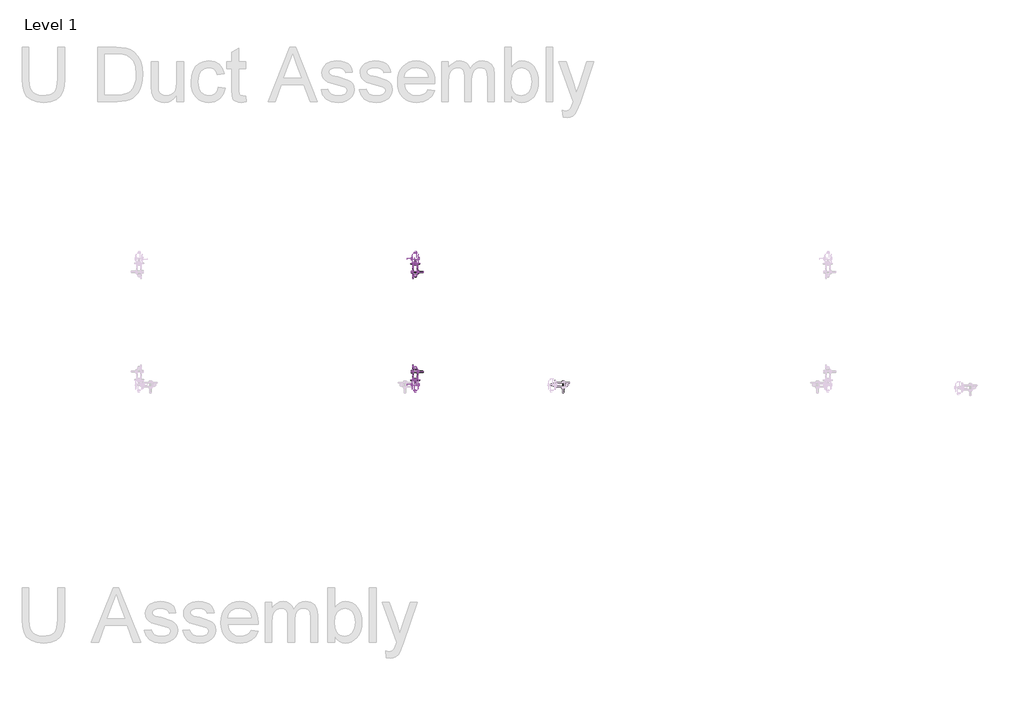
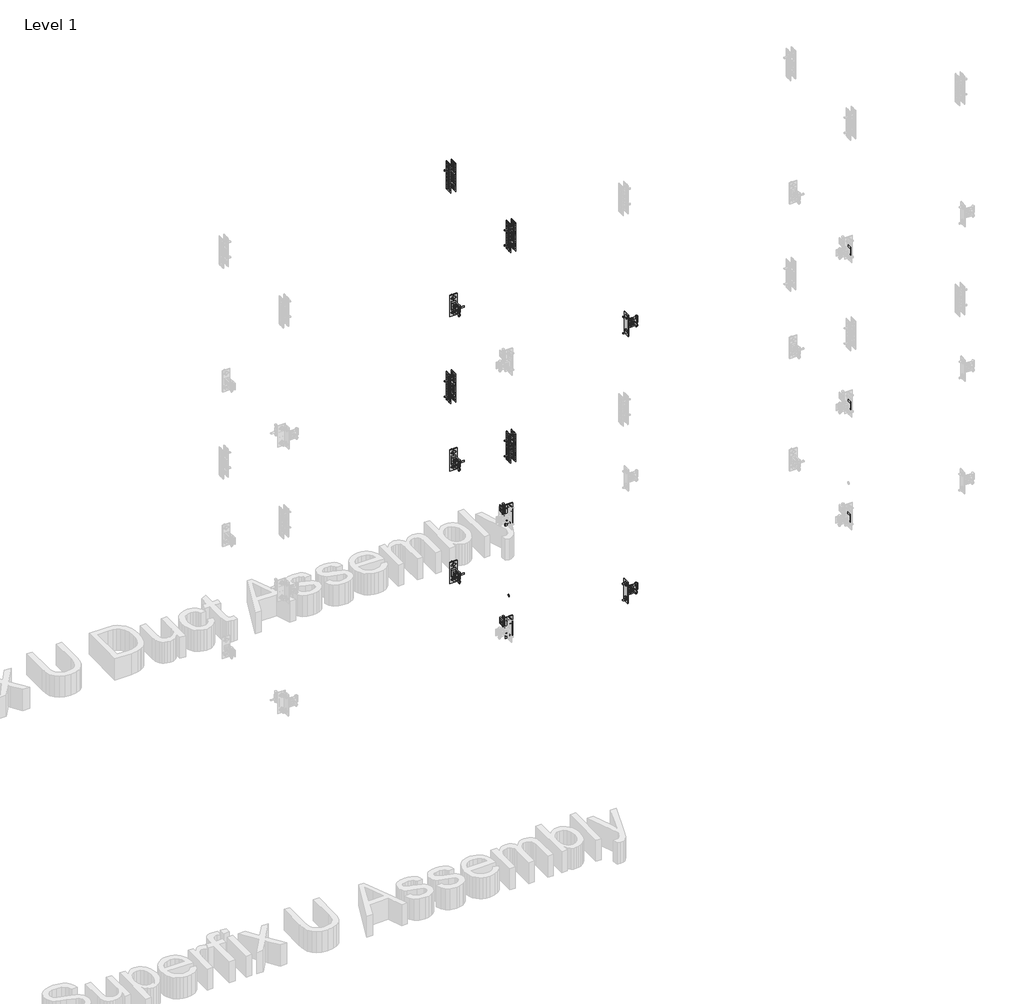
# One storey, part 13 of 32: 143 valves.
"""IFC4 building model written with IfcOpenShell, lengths in millimetres."""

from ifc_helpers import new_model, si_unit, origin, place, context, project, spatial, transform, mapped, element, save
from components import valve_fad8a5b8, hexagon_nut_galvanized_extra_m8_53389388, superfix_hexagon_screw_galvanized_8354a985, superfix_hexagon_screw_galvanized_f0d66714, superfix_hexagon_screw_galvanized_68d17cb7, superfix_hexagon_screw_galvanized_e39b877e, superfix_hexagon_screw_galvanized_3ef5af78, superfix_hexagon_screw_galvanized_3d7df342, superfix_strap_981cfdac, superfix_u_658711f6, superfix_u_31397e19, superfix_u_bracket_h_0b8578fe, superfix_u_bracket_h_f60a1122

model = new_model("IFC4")

# Units and contexts
model_context = context("Model", 3, world=origin())
ifc_project = project(units=[si_unit("LENGTHUNIT", "METRE", prefix="MILLI")], contexts=[model_context])

# Site, building, storey
site = spatial("IfcSite", under=ifc_project)
building = spatial("IfcBuilding", under=site)
storey = spatial("IfcBuildingStorey", under=building, Name="Level 1", Elevation=0.0)

# Valves
placement = place(None, origin())
valve_shape = valve_fad8a5b8(model_context)
element("IfcValve", 1, ObjectType="Superfix Flat Washer : Superfix Flat Washer M8x15x1.5", at=placement, inside=storey, context=model_context, shape_type="MappedRepresentation", body=[
    mapped(valve_shape, transform((-18695.950626, 29404.96055, 2600.0), x_axis=(0.0, 1.0, 0.0), y_axis=(0.0, 0.0, 1.0), z_axis=(1.0, 0.0, 0.0))),
])
element("IfcValve", 2, ObjectType="Superfix Flat Washer : Superfix Flat Washer M8x15x1.5", at=placement, inside=storey, context=model_context, shape_type="MappedRepresentation", body=[
    mapped(valve_shape, transform((-18708.450626, 29455.96055, 2658.0), x_axis=(0.0, 0.0, 1.0), y_axis=(-1.0, 0.0, 0.0), z_axis=(0.0, -1.0, 0.0))),
])
element("IfcValve", 3, ObjectType="Superfix Flat Washer : Superfix Flat Washer M8x15x1.5", at=placement, inside=storey, context=model_context, shape_type="MappedRepresentation", body=[
    mapped(valve_shape, transform((-18708.450626, 29455.96055, 2542.0), x_axis=(0.0, 0.0, 1.0), y_axis=(-1.0, 0.0, 0.0), z_axis=(0.0, -1.0, 0.0))),
])
element("IfcValve", 4, ObjectType="Superfix Flat Washer : Superfix Flat Washer M8x15x1.5", at=placement, inside=storey, context=model_context, shape_type="MappedRepresentation", body=[
    mapped(valve_shape, transform((-18708.450626, 29384.96055, 2571.5), x_axis=(0.0, 1.0, 0.0), y_axis=(1.0, 0.0, 0.0), z_axis=(0.0, 0.0, -1.0))),
])
element("IfcValve", 5, ObjectType="Superfix Flat Washer : Superfix Flat Washer M8x15x1.5", at=placement, inside=storey, context=model_context, shape_type="MappedRepresentation", body=[
    mapped(valve_shape, transform((-18695.950626, 29404.96055, 1500.0), x_axis=(0.0, 1.0, 0.0), y_axis=(0.0, 0.0, 1.0), z_axis=(1.0, 0.0, 0.0))),
])
element("IfcValve", 6, ObjectType="Superfix Flat Washer : Superfix Flat Washer M8x15x1.5", at=placement, inside=storey, context=model_context, shape_type="MappedRepresentation", body=[
    mapped(valve_shape, transform((-18695.950626, 28851.96055, 1500.0), x_axis=(0.0, 1.0, 0.0), y_axis=(0.0, 0.0, 1.0), z_axis=(1.0, 0.0, 0.0))),
])
element("IfcValve", 7, ObjectType="Superfix Flat Washer : Superfix Flat Washer M8x15x1.5", at=placement, inside=storey, context=model_context, shape_type="MappedRepresentation", body=[
    mapped(valve_shape, transform((-18708.450626, 29455.96055, 1558.0), x_axis=(0.0, 0.0, 1.0), y_axis=(-1.0, 0.0, 0.0), z_axis=(0.0, -1.0, 0.0))),
])
element("IfcValve", 8, ObjectType="Superfix Flat Washer : Superfix Flat Washer M8x15x1.5", at=placement, inside=storey, context=model_context, shape_type="MappedRepresentation", body=[
    mapped(valve_shape, transform((-18708.450626, 28802.56055, 1442.0), x_axis=(0.0, 0.0, 1.0), y_axis=(-1.0, 0.0, 0.0), z_axis=(0.0, -1.0, 0.0))),
])
element("IfcValve", 9, ObjectType="Superfix Flat Washer : Superfix Flat Washer M8x15x1.5", at=placement, inside=storey, context=model_context, shape_type="MappedRepresentation", body=[
    mapped(valve_shape, transform((-18708.450626, 29455.96055, 1442.0), x_axis=(0.0, 0.0, 1.0), y_axis=(-1.0, 0.0, 0.0), z_axis=(0.0, -1.0, 0.0))),
])
element("IfcValve", 10, ObjectType="Superfix Flat Washer : Superfix Flat Washer M8x15x1.5", at=placement, inside=storey, context=model_context, shape_type="MappedRepresentation", body=[
    mapped(valve_shape, transform((-18708.450626, 28802.56055, 1558.0), x_axis=(0.0, 0.0, 1.0), y_axis=(-1.0, 0.0, 0.0), z_axis=(0.0, -1.0, 0.0))),
])
element("IfcValve", 11, ObjectType="Superfix Flat Washer : Superfix Flat Washer M8x15x1.5", at=placement, inside=storey, context=model_context, shape_type="MappedRepresentation", body=[
    mapped(valve_shape, transform((-18708.450626, 28871.96055, 1471.5), x_axis=(0.0, 1.0, 0.0), y_axis=(1.0, 0.0, 0.0), z_axis=(0.0, 0.0, -1.0))),
])
element("IfcValve", 12, ObjectType="Superfix Flat Washer : Superfix Flat Washer M8x15x1.5", at=placement, inside=storey, context=model_context, shape_type="MappedRepresentation", body=[
    mapped(valve_shape, transform((-18708.450626, 29384.96055, 1471.5), x_axis=(0.0, 1.0, 0.0), y_axis=(1.0, 0.0, 0.0), z_axis=(0.0, 0.0, -1.0))),
])
element("IfcValve", 13, ObjectType="Superfix Flat Washer : Superfix Flat Washer M8x15x1.5", at=placement, inside=storey, context=model_context, shape_type="MappedRepresentation", body=[
    mapped(valve_shape, transform((-18695.950626, 29403.96055, 700.0), x_axis=(0.0, 1.0, 0.0), y_axis=(0.0, 0.0, 1.0), z_axis=(1.0, 0.0, 0.0))),
])
element("IfcValve", 14, ObjectType="Superfix Flat Washer : Superfix Flat Washer M8x15x1.5", at=placement, inside=storey, context=model_context, shape_type="MappedRepresentation", body=[
    mapped(valve_shape, transform((-18695.950626, 28850.96055, 700.0), x_axis=(0.0, 1.0, 0.0), y_axis=(0.0, 0.0, 1.0), z_axis=(1.0, 0.0, 0.0))),
])
element("IfcValve", 15, ObjectType="Superfix Flat Washer : Superfix Flat Washer M8x15x1.5", at=placement, inside=storey, context=model_context, shape_type="MappedRepresentation", body=[
    mapped(valve_shape, transform((-18708.450626, 29454.96055, 758.0), x_axis=(0.0, 0.0, 1.0), y_axis=(-1.0, 0.0, 0.0), z_axis=(0.0, -1.0, 0.0))),
])
element("IfcValve", 16, ObjectType="Superfix Flat Washer : Superfix Flat Washer M8x15x1.5", at=placement, inside=storey, context=model_context, shape_type="MappedRepresentation", body=[
    mapped(valve_shape, transform((-18708.450626, 28801.56055, 642.0), x_axis=(0.0, 0.0, 1.0), y_axis=(-1.0, 0.0, 0.0), z_axis=(0.0, -1.0, 0.0))),
])
element("IfcValve", 17, ObjectType="Superfix Flat Washer : Superfix Flat Washer M8x15x1.5", at=placement, inside=storey, context=model_context, shape_type="MappedRepresentation", body=[
    mapped(valve_shape, transform((-18708.450626, 29454.96055, 642.0), x_axis=(0.0, 0.0, 1.0), y_axis=(-1.0, 0.0, 0.0), z_axis=(0.0, -1.0, 0.0))),
])
element("IfcValve", 18, ObjectType="Superfix Flat Washer : Superfix Flat Washer M8x15x1.5", at=placement, inside=storey, context=model_context, shape_type="MappedRepresentation", body=[
    mapped(valve_shape, transform((-18708.450626, 28801.56055, 758.0), x_axis=(0.0, 0.0, 1.0), y_axis=(-1.0, 0.0, 0.0), z_axis=(0.0, -1.0, 0.0))),
])
element("IfcValve", 19, ObjectType="Superfix Flat Washer : Superfix Flat Washer M8x15x1.5", at=placement, inside=storey, context=model_context, shape_type="MappedRepresentation", body=[
    mapped(valve_shape, transform((-18708.450626, 28870.96055, 671.5), x_axis=(0.0, 1.0, 0.0), y_axis=(1.0, 0.0, 0.0), z_axis=(0.0, 0.0, -1.0))),
])
element("IfcValve", 20, ObjectType="Superfix Flat Washer : Superfix Flat Washer M8x15x1.5", at=placement, inside=storey, context=model_context, shape_type="MappedRepresentation", body=[
    mapped(valve_shape, transform((-18708.450626, 29383.96055, 671.5), x_axis=(0.0, 1.0, 0.0), y_axis=(1.0, 0.0, 0.0), z_axis=(0.0, 0.0, -1.0))),
])
element("IfcValve", 21, ObjectType="Superfix Flat Washer : Superfix Flat Washer M8x15x1.5", at=placement, inside=storey, context=model_context, shape_type="MappedRepresentation", body=[
    mapped(valve_shape, transform((-17888.3949112, 28765.46055, 700.0), x_axis=(1.0, 0.0, 0.0), y_axis=(0.0, 0.0, 1.0), z_axis=(0.0, -1.0, 0.0))),
])
element("IfcValve", 22, ObjectType="Superfix Flat Washer : Superfix Flat Washer M8x15x1.5", at=placement, inside=storey, context=model_context, shape_type="MappedRepresentation", body=[
    mapped(valve_shape, transform((-17937.7949112, 28777.96055, 642.0), x_axis=(0.0, 0.0, 1.0), y_axis=(0.0, 1.0, 0.0), z_axis=(-1.0, 0.0, 0.0))),
])
element("IfcValve", 23, ObjectType="Superfix Flat Washer : Superfix Flat Washer M8x15x1.5", at=placement, inside=storey, context=model_context, shape_type="MappedRepresentation", body=[
    mapped(valve_shape, transform((-17937.7949112, 28777.96055, 758.0), x_axis=(0.0, 0.0, 1.0), y_axis=(0.0, 1.0, 0.0), z_axis=(-1.0, 0.0, 0.0))),
])
element("IfcValve", 24, ObjectType="Superfix Flat Washer : Superfix Flat Washer M8x15x1.5", at=placement, inside=storey, context=model_context, shape_type="MappedRepresentation", body=[
    mapped(valve_shape, transform((-17868.3949112, 28777.96055, 671.5), x_axis=(1.0, 0.0, 0.0), y_axis=(0.0, -1.0, 0.0), z_axis=(0.0, 0.0, -1.0))),
])
element("IfcValve", 25, ObjectType="Superfix Flat Washer : Superfix Flat Washer M8x15x1.5", at=placement, inside=storey, context=model_context, shape_type="MappedRepresentation", body=[
    mapped(valve_shape, transform((-18726.050626, 29477.96055, 2055.0), x_axis=(0.0, 1.0, 0.0), y_axis=(0.0, 0.0, 1.0), z_axis=(1.0, 0.0, 0.0))),
])
element("IfcValve", 26, ObjectType="Superfix Flat Washer : Superfix Flat Washer M8x15x1.5", at=placement, inside=storey, context=model_context, shape_type="MappedRepresentation", body=[
    mapped(valve_shape, transform((-18726.050626, 29477.96055, 1945.0), x_axis=(0.0, 1.0, 0.0), y_axis=(0.0, 0.0, 1.0), z_axis=(1.0, 0.0, 0.0))),
])
element("IfcValve", 27, ObjectType="Superfix Flat Washer : Superfix Flat Washer M8x15x1.5", at=placement, inside=storey, context=model_context, shape_type="MappedRepresentation", body=[
    mapped(valve_shape, transform((-18726.050626, 28777.96055, 2055.0), x_axis=(0.0, 1.0, 0.0), y_axis=(0.0, 0.0, 1.0), z_axis=(1.0, 0.0, 0.0))),
])
element("IfcValve", 28, ObjectType="Superfix Flat Washer : Superfix Flat Washer M8x15x1.5", at=placement, inside=storey, context=model_context, shape_type="MappedRepresentation", body=[
    mapped(valve_shape, transform((-18726.050626, 28777.96055, 945.0), x_axis=(0.0, 1.0, 0.0), y_axis=(0.0, 0.0, 1.0), z_axis=(1.0, 0.0, 0.0))),
])
element("IfcValve", 29, ObjectType="Superfix Flat Washer : Superfix Flat Washer M8x15x1.5", at=placement, inside=storey, context=model_context, shape_type="MappedRepresentation", body=[
    mapped(valve_shape, transform((-18708.450626, 29508.06055, 2040.0), x_axis=(1.0, 0.0, 0.0), y_axis=(0.0, 0.0, 1.0), z_axis=(0.0, -1.0, 0.0))),
])
element("IfcValve", 30, ObjectType="Superfix Flat Washer : Superfix Flat Washer M8x15x1.5", at=placement, inside=storey, context=model_context, shape_type="MappedRepresentation", body=[
    mapped(valve_shape, transform((-18708.450626, 29508.06055, 1960.0), x_axis=(1.0, 0.0, 0.0), y_axis=(0.0, 0.0, 1.0), z_axis=(0.0, -1.0, 0.0))),
])
element("IfcValve", 31, ObjectType="Superfix Flat Washer : Superfix Flat Washer M8x15x1.5", at=placement, inside=storey, context=model_context, shape_type="MappedRepresentation", body=[
    mapped(valve_shape, transform((-18708.450626, 28749.46055, 2040.0), x_axis=(1.0, 0.0, 0.0), y_axis=(0.0, 0.0, 1.0), z_axis=(0.0, -1.0, 0.0))),
])
element("IfcValve", 32, ObjectType="Superfix Flat Washer : Superfix Flat Washer M8x15x1.5", at=placement, inside=storey, context=model_context, shape_type="MappedRepresentation", body=[
    mapped(valve_shape, transform((-18708.450626, 28749.46055, 1960.0), x_axis=(1.0, 0.0, 0.0), y_axis=(0.0, 0.0, 1.0), z_axis=(0.0, -1.0, 0.0))),
])
element("IfcValve", 33, ObjectType="Superfix Flat Washer : Superfix Flat Washer M8x15x1.5", at=placement, inside=storey, context=model_context, shape_type="MappedRepresentation", body=[
    mapped(valve_shape, transform((-18726.050626, 29477.96055, 3555.0), x_axis=(0.0, 1.0, 0.0), y_axis=(0.0, 0.0, 1.0), z_axis=(1.0, 0.0, 0.0))),
])
element("IfcValve", 34, ObjectType="Superfix Flat Washer : Superfix Flat Washer M8x15x1.5", at=placement, inside=storey, context=model_context, shape_type="MappedRepresentation", body=[
    mapped(valve_shape, transform((-18726.050626, 29477.96055, 3445.0), x_axis=(0.0, 1.0, 0.0), y_axis=(0.0, 0.0, 1.0), z_axis=(1.0, 0.0, 0.0))),
])
element("IfcValve", 35, ObjectType="Superfix Flat Washer : Superfix Flat Washer M8x15x1.5", at=placement, inside=storey, context=model_context, shape_type="MappedRepresentation", body=[
    mapped(valve_shape, transform((-18726.050626, 28777.96055, 3555.0), x_axis=(0.0, 1.0, 0.0), y_axis=(0.0, 0.0, 1.0), z_axis=(1.0, 0.0, 0.0))),
])
element("IfcValve", 36, ObjectType="Superfix Flat Washer : Superfix Flat Washer M8x15x1.5", at=placement, inside=storey, context=model_context, shape_type="MappedRepresentation", body=[
    mapped(valve_shape, transform((-18708.450626, 29508.06055, 3540.0), x_axis=(1.0, 0.0, 0.0), y_axis=(0.0, 0.0, 1.0), z_axis=(0.0, -1.0, 0.0))),
])
element("IfcValve", 37, ObjectType="Superfix Flat Washer : Superfix Flat Washer M8x15x1.5", at=placement, inside=storey, context=model_context, shape_type="MappedRepresentation", body=[
    mapped(valve_shape, transform((-18708.450626, 29508.06055, 3460.0), x_axis=(1.0, 0.0, 0.0), y_axis=(0.0, 0.0, 1.0), z_axis=(0.0, -1.0, 0.0))),
])
element("IfcValve", 38, ObjectType="Superfix Flat Washer : Superfix Flat Washer M8x15x1.5", at=placement, inside=storey, context=model_context, shape_type="MappedRepresentation", body=[
    mapped(valve_shape, transform((-18708.450626, 28749.46055, 3540.0), x_axis=(1.0, 0.0, 0.0), y_axis=(0.0, 0.0, 1.0), z_axis=(0.0, -1.0, 0.0))),
])
element("IfcValve", 39, ObjectType="Superfix Flat Washer : Superfix Flat Washer M8x15x1.5", at=placement, inside=storey, context=model_context, shape_type="MappedRepresentation", body=[
    mapped(valve_shape, transform((-18708.450626, 28749.46055, 3460.0), x_axis=(1.0, 0.0, 0.0), y_axis=(0.0, 0.0, 1.0), z_axis=(0.0, -1.0, 0.0))),
])
hexagon_nut_galvanized_extra_m8_shape = hexagon_nut_galvanized_extra_m8_53389388(model_context)
element("IfcValve", 40, ObjectType="Superfix Hexagon Nut Galvanized : Hexagon Nut Galvanized M8", at=placement, inside=storey, context=model_context, shape_type="MappedRepresentation", body=[
    mapped(hexagon_nut_galvanized_extra_m8_shape, transform((-18695.950626, 29404.96055, 2600.0), x_axis=(0.0, 1.0, 0.0), y_axis=(0.0, 0.0, 1.0), z_axis=(1.0, 0.0, 0.0))),
])
element("IfcValve", 41, ObjectType="Superfix Hexagon Nut Galvanized : Hexagon Nut Galvanized M8", at=placement, inside=storey, context=model_context, shape_type="MappedRepresentation", body=[
    mapped(hexagon_nut_galvanized_extra_m8_shape, transform((-18708.450626, 29384.96055, 2565.0), x_axis=(-1.0, 0.0, 0.0), y_axis=(0.0, -1.0, 0.0), z_axis=(0.0, 0.0, 1.0))),
])
element("IfcValve", 42, ObjectType="Superfix Hexagon Nut Galvanized : Hexagon Nut Galvanized M8", at=placement, inside=storey, context=model_context, shape_type="MappedRepresentation", body=[
    mapped(hexagon_nut_galvanized_extra_m8_shape, transform((-18708.450626, 29462.46055, 2542.0), x_axis=(0.0, 0.0, 1.0), y_axis=(-1.0, 0.0, 0.0), z_axis=(0.0, -1.0, 0.0))),
])
element("IfcValve", 43, ObjectType="Superfix Hexagon Nut Galvanized : Hexagon Nut Galvanized M8", at=placement, inside=storey, context=model_context, shape_type="MappedRepresentation", body=[
    mapped(hexagon_nut_galvanized_extra_m8_shape, transform((-18708.450626, 29462.46055, 2658.0), x_axis=(0.0, 0.0, 1.0), y_axis=(-1.0, 0.0, 0.0), z_axis=(0.0, -1.0, 0.0))),
])
element("IfcValve", 44, ObjectType="Superfix Hexagon Nut Galvanized : Hexagon Nut Galvanized M8", at=placement, inside=storey, context=model_context, shape_type="MappedRepresentation", body=[
    mapped(hexagon_nut_galvanized_extra_m8_shape, transform((-18695.950626, 29404.96055, 1500.0), x_axis=(0.0, 1.0, 0.0), y_axis=(0.0, 0.0, 1.0), z_axis=(1.0, 0.0, 0.0))),
])
element("IfcValve", 45, ObjectType="Superfix Hexagon Nut Galvanized : Hexagon Nut Galvanized M8", at=placement, inside=storey, context=model_context, shape_type="MappedRepresentation", body=[
    mapped(hexagon_nut_galvanized_extra_m8_shape, transform((-18708.450626, 29384.96055, 1465.0), x_axis=(-1.0, 0.0, 0.0), y_axis=(0.0, -1.0, 0.0), z_axis=(0.0, 0.0, 1.0))),
])
element("IfcValve", 46, ObjectType="Superfix Hexagon Nut Galvanized : Hexagon Nut Galvanized M8", at=placement, inside=storey, context=model_context, shape_type="MappedRepresentation", body=[
    mapped(hexagon_nut_galvanized_extra_m8_shape, transform((-18708.450626, 29462.46055, 1442.0), x_axis=(0.0, 0.0, 1.0), y_axis=(-1.0, 0.0, 0.0), z_axis=(0.0, -1.0, 0.0))),
])
element("IfcValve", 47, ObjectType="Superfix Hexagon Nut Galvanized : Hexagon Nut Galvanized M8", at=placement, inside=storey, context=model_context, shape_type="MappedRepresentation", body=[
    mapped(hexagon_nut_galvanized_extra_m8_shape, transform((-18708.450626, 29462.46055, 1558.0), x_axis=(0.0, 0.0, 1.0), y_axis=(-1.0, 0.0, 0.0), z_axis=(0.0, -1.0, 0.0))),
])
element("IfcValve", 48, ObjectType="Superfix Hexagon Nut Galvanized : Hexagon Nut Galvanized M8", at=placement, inside=storey, context=model_context, shape_type="MappedRepresentation", body=[
    mapped(hexagon_nut_galvanized_extra_m8_shape, transform((-18695.950626, 29403.96055, 700.0), x_axis=(0.0, 1.0, 0.0), y_axis=(0.0, 0.0, 1.0), z_axis=(1.0, 0.0, 0.0))),
])
element("IfcValve", 49, ObjectType="Superfix Hexagon Nut Galvanized : Hexagon Nut Galvanized M8", at=placement, inside=storey, context=model_context, shape_type="MappedRepresentation", body=[
    mapped(hexagon_nut_galvanized_extra_m8_shape, transform((-18708.450626, 29383.96055, 665.0), x_axis=(-1.0, 0.0, 0.0), y_axis=(0.0, -1.0, 0.0), z_axis=(0.0, 0.0, 1.0))),
])
element("IfcValve", 50, ObjectType="Superfix Hexagon Nut Galvanized : Hexagon Nut Galvanized M8", at=placement, inside=storey, context=model_context, shape_type="MappedRepresentation", body=[
    mapped(hexagon_nut_galvanized_extra_m8_shape, transform((-18708.450626, 29461.46055, 642.0), x_axis=(0.0, 0.0, 1.0), y_axis=(-1.0, 0.0, 0.0), z_axis=(0.0, -1.0, 0.0))),
])
element("IfcValve", 51, ObjectType="Superfix Hexagon Nut Galvanized : Hexagon Nut Galvanized M8", at=placement, inside=storey, context=model_context, shape_type="MappedRepresentation", body=[
    mapped(hexagon_nut_galvanized_extra_m8_shape, transform((-18708.450626, 29461.46055, 758.0), x_axis=(0.0, 0.0, 1.0), y_axis=(-1.0, 0.0, 0.0), z_axis=(0.0, -1.0, 0.0))),
])
element("IfcValve", 52, ObjectType="Superfix Hexagon Nut Galvanized : Hexagon Nut Galvanized M8", at=placement, inside=storey, context=model_context, shape_type="MappedRepresentation", body=[
    mapped(hexagon_nut_galvanized_extra_m8_shape, transform((-18695.950626, 28851.96055, 1500.0), x_axis=(0.0, -1.0, 0.0), y_axis=(0.0, 0.0, -1.0), z_axis=(1.0, 0.0, 0.0))),
])
element("IfcValve", 53, ObjectType="Superfix Hexagon Nut Galvanized : Hexagon Nut Galvanized M8", at=placement, inside=storey, context=model_context, shape_type="MappedRepresentation", body=[
    mapped(hexagon_nut_galvanized_extra_m8_shape, transform((-18708.450626, 28871.96055, 1465.0), x_axis=(-1.0, 0.0, 0.0), y_axis=(0.0, -1.0, 0.0), z_axis=(0.0, 0.0, 1.0))),
])
element("IfcValve", 54, ObjectType="Superfix Hexagon Nut Galvanized : Hexagon Nut Galvanized M8", at=placement, inside=storey, context=model_context, shape_type="MappedRepresentation", body=[
    mapped(hexagon_nut_galvanized_extra_m8_shape, transform((-18708.450626, 28794.46055, 1442.0), x_axis=(0.0, 0.0, 1.0), y_axis=(1.0, 0.0, 0.0), z_axis=(0.0, 1.0, 0.0))),
])
element("IfcValve", 55, ObjectType="Superfix Hexagon Nut Galvanized : Hexagon Nut Galvanized M8", at=placement, inside=storey, context=model_context, shape_type="MappedRepresentation", body=[
    mapped(hexagon_nut_galvanized_extra_m8_shape, transform((-18708.450626, 28794.46055, 1558.0), x_axis=(0.0, 0.0, 1.0), y_axis=(1.0, 0.0, 0.0), z_axis=(0.0, 1.0, 0.0))),
])
element("IfcValve", 56, ObjectType="Superfix Hexagon Nut Galvanized : Hexagon Nut Galvanized M8", at=placement, inside=storey, context=model_context, shape_type="MappedRepresentation", body=[
    mapped(hexagon_nut_galvanized_extra_m8_shape, transform((-18695.950626, 28850.96055, 700.0), x_axis=(0.0, -1.0, 0.0), y_axis=(0.0, 0.0, -1.0), z_axis=(1.0, 0.0, 0.0))),
])
element("IfcValve", 57, ObjectType="Superfix Hexagon Nut Galvanized : Hexagon Nut Galvanized M8", at=placement, inside=storey, context=model_context, shape_type="MappedRepresentation", body=[
    mapped(hexagon_nut_galvanized_extra_m8_shape, transform((-18708.450626, 28870.96055, 665.0), x_axis=(-1.0, 0.0, 0.0), y_axis=(0.0, -1.0, 0.0), z_axis=(0.0, 0.0, 1.0))),
])
element("IfcValve", 58, ObjectType="Superfix Hexagon Nut Galvanized : Hexagon Nut Galvanized M8", at=placement, inside=storey, context=model_context, shape_type="MappedRepresentation", body=[
    mapped(hexagon_nut_galvanized_extra_m8_shape, transform((-18708.450626, 28793.46055, 642.0), x_axis=(0.0, 0.0, 1.0), y_axis=(1.0, 0.0, 0.0), z_axis=(0.0, 1.0, 0.0))),
])
element("IfcValve", 59, ObjectType="Superfix Hexagon Nut Galvanized : Hexagon Nut Galvanized M8", at=placement, inside=storey, context=model_context, shape_type="MappedRepresentation", body=[
    mapped(hexagon_nut_galvanized_extra_m8_shape, transform((-18708.450626, 28793.46055, 758.0), x_axis=(0.0, 0.0, 1.0), y_axis=(1.0, 0.0, 0.0), z_axis=(0.0, 1.0, 0.0))),
])
element("IfcValve", 60, ObjectType="Superfix Hexagon Nut Galvanized : Hexagon Nut Galvanized M8", at=placement, inside=storey, context=model_context, shape_type="MappedRepresentation", body=[
    mapped(hexagon_nut_galvanized_extra_m8_shape, transform((-17888.3949112, 28765.46055, 700.0), x_axis=(-1.0, 0.0, 0.0), y_axis=(0.0, 0.0, -1.0), z_axis=(0.0, -1.0, 0.0))),
])
element("IfcValve", 61, ObjectType="Superfix Hexagon Nut Galvanized : Hexagon Nut Galvanized M8", at=placement, inside=storey, context=model_context, shape_type="MappedRepresentation", body=[
    mapped(hexagon_nut_galvanized_extra_m8_shape, transform((-17868.3949112, 28777.96055, 665.0), x_axis=(0.0, 1.0, 0.0), y_axis=(-1.0, 0.0, 0.0), z_axis=(0.0, 0.0, 1.0))),
])
element("IfcValve", 62, ObjectType="Superfix Hexagon Nut Galvanized : Hexagon Nut Galvanized M8", at=placement, inside=storey, context=model_context, shape_type="MappedRepresentation", body=[
    mapped(hexagon_nut_galvanized_extra_m8_shape, transform((-17945.8949112, 28777.96055, 642.0), x_axis=(0.0, 0.0, 1.0), y_axis=(0.0, -1.0, 0.0), z_axis=(1.0, 0.0, 0.0))),
])
element("IfcValve", 63, ObjectType="Superfix Hexagon Nut Galvanized : Hexagon Nut Galvanized M8", at=placement, inside=storey, context=model_context, shape_type="MappedRepresentation", body=[
    mapped(hexagon_nut_galvanized_extra_m8_shape, transform((-17945.8949112, 28777.96055, 758.0), x_axis=(0.0, 0.0, 1.0), y_axis=(0.0, -1.0, 0.0), z_axis=(1.0, 0.0, 0.0))),
])
element("IfcValve", 64, ObjectType="Superfix Hexagon Nut Galvanized : Hexagon Nut Galvanized M8", at=placement, inside=storey, context=model_context, shape_type="MappedRepresentation", body=[
    mapped(hexagon_nut_galvanized_extra_m8_shape, transform((-18724.450626, 28777.96055, 2055.0), x_axis=(0.0, 1.0, 0.0), y_axis=(0.0, 0.0, -1.0), z_axis=(-1.0, 0.0, 0.0))),
])
element("IfcValve", 65, ObjectType="Superfix Hexagon Nut Galvanized : Hexagon Nut Galvanized M8", at=placement, inside=storey, context=model_context, shape_type="MappedRepresentation", body=[
    mapped(hexagon_nut_galvanized_extra_m8_shape, transform((-18724.450626, 28777.96055, 1945.0), x_axis=(0.0, 1.0, 0.0), y_axis=(0.0, 0.0, -1.0), z_axis=(-1.0, 0.0, 0.0))),
])
element("IfcValve", 66, ObjectType="Superfix Hexagon Nut Galvanized : Hexagon Nut Galvanized M8", at=placement, inside=storey, context=model_context, shape_type="MappedRepresentation", body=[
    mapped(hexagon_nut_galvanized_extra_m8_shape, transform((-18724.450626, 29477.96055, 2055.0), x_axis=(0.0, 1.0, 0.0), y_axis=(0.0, 0.0, -1.0), z_axis=(-1.0, 0.0, 0.0))),
])
element("IfcValve", 67, ObjectType="Superfix Hexagon Nut Galvanized : Hexagon Nut Galvanized M8", at=placement, inside=storey, context=model_context, shape_type="MappedRepresentation", body=[
    mapped(hexagon_nut_galvanized_extra_m8_shape, transform((-18724.450626, 29477.96055, 1945.0), x_axis=(0.0, 1.0, 0.0), y_axis=(0.0, 0.0, -1.0), z_axis=(-1.0, 0.0, 0.0))),
])
element("IfcValve", 68, ObjectType="Superfix Hexagon Nut Galvanized : Hexagon Nut Galvanized M8", at=placement, inside=storey, context=model_context, shape_type="MappedRepresentation", body=[
    mapped(hexagon_nut_galvanized_extra_m8_shape, transform((-18708.450626, 28749.46055, 2040.0), x_axis=(1.0, 0.0, 0.0), y_axis=(0.0, 0.0, 1.0), z_axis=(0.0, -1.0, 0.0))),
])
element("IfcValve", 69, ObjectType="Superfix Hexagon Nut Galvanized : Hexagon Nut Galvanized M8", at=placement, inside=storey, context=model_context, shape_type="MappedRepresentation", body=[
    mapped(hexagon_nut_galvanized_extra_m8_shape, transform((-18708.450626, 29512.96055, 2040.0), x_axis=(1.0, 0.0, 0.0), y_axis=(0.0, 0.0, 1.0), z_axis=(0.0, -1.0, 0.0))),
])
element("IfcValve", 70, ObjectType="Superfix Hexagon Nut Galvanized : Hexagon Nut Galvanized M8", at=placement, inside=storey, context=model_context, shape_type="MappedRepresentation", body=[
    mapped(hexagon_nut_galvanized_extra_m8_shape, transform((-18708.450626, 28749.46055, 1960.0), x_axis=(1.0, 0.0, 0.0), y_axis=(0.0, 0.0, 1.0), z_axis=(0.0, -1.0, 0.0))),
])
element("IfcValve", 71, ObjectType="Superfix Hexagon Nut Galvanized : Hexagon Nut Galvanized M8", at=placement, inside=storey, context=model_context, shape_type="MappedRepresentation", body=[
    mapped(hexagon_nut_galvanized_extra_m8_shape, transform((-18708.450626, 29512.96055, 1960.0), x_axis=(1.0, 0.0, 0.0), y_axis=(0.0, 0.0, 1.0), z_axis=(0.0, -1.0, 0.0))),
])
element("IfcValve", 72, ObjectType="Superfix Hexagon Nut Galvanized : Hexagon Nut Galvanized M8", at=placement, inside=storey, context=model_context, shape_type="MappedRepresentation", body=[
    mapped(hexagon_nut_galvanized_extra_m8_shape, transform((-18724.450626, 28777.96055, 3555.0), x_axis=(0.0, 1.0, 0.0), y_axis=(0.0, 0.0, -1.0), z_axis=(-1.0, 0.0, 0.0))),
])
element("IfcValve", 73, ObjectType="Superfix Hexagon Nut Galvanized : Hexagon Nut Galvanized M8", at=placement, inside=storey, context=model_context, shape_type="MappedRepresentation", body=[
    mapped(hexagon_nut_galvanized_extra_m8_shape, transform((-18724.450626, 28777.96055, 3445.0), x_axis=(0.0, 1.0, 0.0), y_axis=(0.0, 0.0, -1.0), z_axis=(-1.0, 0.0, 0.0))),
])
element("IfcValve", 74, ObjectType="Superfix Hexagon Nut Galvanized : Hexagon Nut Galvanized M8", at=placement, inside=storey, context=model_context, shape_type="MappedRepresentation", body=[
    mapped(hexagon_nut_galvanized_extra_m8_shape, transform((-18724.450626, 29477.96055, 3555.0), x_axis=(0.0, 1.0, 0.0), y_axis=(0.0, 0.0, -1.0), z_axis=(-1.0, 0.0, 0.0))),
])
element("IfcValve", 75, ObjectType="Superfix Hexagon Nut Galvanized : Hexagon Nut Galvanized M8", at=placement, inside=storey, context=model_context, shape_type="MappedRepresentation", body=[
    mapped(hexagon_nut_galvanized_extra_m8_shape, transform((-18724.450626, 29477.96055, 3445.0), x_axis=(0.0, 1.0, 0.0), y_axis=(0.0, 0.0, -1.0), z_axis=(-1.0, 0.0, 0.0))),
])
element("IfcValve", 76, ObjectType="Superfix Hexagon Nut Galvanized : Hexagon Nut Galvanized M8", at=placement, inside=storey, context=model_context, shape_type="MappedRepresentation", body=[
    mapped(hexagon_nut_galvanized_extra_m8_shape, transform((-18708.450626, 28749.46055, 3540.0), x_axis=(1.0, 0.0, 0.0), y_axis=(0.0, 0.0, 1.0), z_axis=(0.0, -1.0, 0.0))),
])
element("IfcValve", 77, ObjectType="Superfix Hexagon Nut Galvanized : Hexagon Nut Galvanized M8", at=placement, inside=storey, context=model_context, shape_type="MappedRepresentation", body=[
    mapped(hexagon_nut_galvanized_extra_m8_shape, transform((-18708.450626, 29512.96055, 3540.0), x_axis=(1.0, 0.0, 0.0), y_axis=(0.0, 0.0, 1.0), z_axis=(0.0, -1.0, 0.0))),
])
element("IfcValve", 78, ObjectType="Superfix Hexagon Nut Galvanized : Hexagon Nut Galvanized M8", at=placement, inside=storey, context=model_context, shape_type="MappedRepresentation", body=[
    mapped(hexagon_nut_galvanized_extra_m8_shape, transform((-18708.450626, 28749.46055, 3460.0), x_axis=(1.0, 0.0, 0.0), y_axis=(0.0, 0.0, 1.0), z_axis=(0.0, -1.0, 0.0))),
])
element("IfcValve", 79, ObjectType="Superfix Hexagon Nut Galvanized : Hexagon Nut Galvanized M8", at=placement, inside=storey, context=model_context, shape_type="MappedRepresentation", body=[
    mapped(hexagon_nut_galvanized_extra_m8_shape, transform((-18708.450626, 29512.96055, 3460.0), x_axis=(1.0, 0.0, 0.0), y_axis=(0.0, 0.0, 1.0), z_axis=(0.0, -1.0, 0.0))),
])
superfix_hexagon_screw_galvanized_shape = superfix_hexagon_screw_galvanized_8354a985(model_context)
element("IfcValve", 80, ObjectType="SuperFix Hexagon Screw Galvanized : Hexagon Screw Galvanized M8 × 25", at=placement, inside=storey, context=model_context, shape_type="MappedRepresentation", body=[
    mapped(superfix_hexagon_screw_galvanized_shape, transform((-18708.450626, 28806.96055, 1558.0), x_axis=(0.0, 0.0, 1.0), y_axis=(1.0, 0.0, 0.0), z_axis=(0.0, 1.0, 0.0))),
])
element("IfcValve", 81, ObjectType="SuperFix Hexagon Screw Galvanized : Hexagon Screw Galvanized M8 × 25", at=placement, inside=storey, context=model_context, shape_type="MappedRepresentation", body=[
    mapped(superfix_hexagon_screw_galvanized_shape, transform((-18708.450626, 28806.96055, 1442.0), x_axis=(0.0, 0.0, 1.0), y_axis=(1.0, 0.0, 0.0), z_axis=(0.0, 1.0, 0.0))),
])
element("IfcValve", 82, ObjectType="SuperFix Hexagon Screw Galvanized : Hexagon Screw Galvanized M8 × 25", at=placement, inside=storey, context=model_context, shape_type="MappedRepresentation", body=[
    mapped(superfix_hexagon_screw_galvanized_shape, transform((-18708.450626, 28805.96055, 758.0), x_axis=(0.0, 0.0, 1.0), y_axis=(1.0, 0.0, 0.0), z_axis=(0.0, 1.0, 0.0))),
])
element("IfcValve", 83, ObjectType="SuperFix Hexagon Screw Galvanized : Hexagon Screw Galvanized M8 × 25", at=placement, inside=storey, context=model_context, shape_type="MappedRepresentation", body=[
    mapped(superfix_hexagon_screw_galvanized_shape, transform((-18708.450626, 28805.96055, 642.0), x_axis=(0.0, 0.0, 1.0), y_axis=(1.0, 0.0, 0.0), z_axis=(0.0, 1.0, 0.0))),
])
element("IfcValve", 84, ObjectType="SuperFix Hexagon Screw Galvanized : Hexagon Screw Galvanized M8 × 25", at=placement, inside=storey, context=model_context, shape_type="MappedRepresentation", body=[
    mapped(superfix_hexagon_screw_galvanized_shape, transform((-17933.3949112, 28777.96055, 758.0), x_axis=(0.0, 0.0, 1.0), y_axis=(0.0, -1.0, 0.0), z_axis=(1.0, 0.0, 0.0))),
])
element("IfcValve", 85, ObjectType="SuperFix Hexagon Screw Galvanized : Hexagon Screw Galvanized M8 × 25", at=placement, inside=storey, context=model_context, shape_type="MappedRepresentation", body=[
    mapped(superfix_hexagon_screw_galvanized_shape, transform((-17933.3949112, 28777.96055, 642.0), x_axis=(0.0, 0.0, 1.0), y_axis=(0.0, -1.0, 0.0), z_axis=(1.0, 0.0, 0.0))),
])
element("IfcValve", 86, ObjectType="SuperFix Hexagon Screw Galvanized : Hexagon Screw Galvanized M8 × 25", at=placement, inside=storey, context=model_context, shape_type="MappedRepresentation", body=[
    mapped(superfix_hexagon_screw_galvanized_shape, transform((-17930.3949112, 28777.96055, 2658.0), x_axis=(0.0, 0.0, 1.0), y_axis=(0.0, -1.0, 0.0), z_axis=(1.0, 0.0, 0.0))),
])
element("IfcValve", 87, ObjectType="SuperFix Hexagon Screw Galvanized : Hexagon Screw Galvanized M8 × 25", at=placement, inside=storey, context=model_context, shape_type="MappedRepresentation", body=[
    mapped(superfix_hexagon_screw_galvanized_shape, transform((-17930.3949112, 28777.96055, 2542.0), x_axis=(0.0, 0.0, 1.0), y_axis=(0.0, -1.0, 0.0), z_axis=(1.0, 0.0, 0.0))),
])
superfix_hexagon_screw_galvanized_2_shape = superfix_hexagon_screw_galvanized_f0d66714(model_context)
element("IfcValve", 88, ObjectType="SuperFix Hexagon Screw Galvanized : Hexagon Screw Galvanized M8 × 60", at=placement, inside=storey, context=model_context, shape_type="MappedRepresentation", body=[
    mapped(superfix_hexagon_screw_galvanized_2_shape, transform((-18723.950626, 29404.96055, 2600.0), x_axis=(0.0, 0.0, 1.0), y_axis=(0.0, 1.0, 0.0), z_axis=(-1.0, 0.0, 0.0))),
])
element("IfcValve", 89, ObjectType="SuperFix Hexagon Screw Galvanized : Hexagon Screw Galvanized M8 × 60", at=placement, inside=storey, context=model_context, shape_type="MappedRepresentation", body=[
    mapped(superfix_hexagon_screw_galvanized_2_shape, transform((-18723.950626, 29404.96055, 1500.0), x_axis=(0.0, 0.0, 1.0), y_axis=(0.0, 1.0, 0.0), z_axis=(-1.0, 0.0, 0.0))),
])
element("IfcValve", 90, ObjectType="SuperFix Hexagon Screw Galvanized : Hexagon Screw Galvanized M8 × 60", at=placement, inside=storey, context=model_context, shape_type="MappedRepresentation", body=[
    mapped(superfix_hexagon_screw_galvanized_2_shape, transform((-18723.950626, 29403.96055, 700.0), x_axis=(0.0, 0.0, 1.0), y_axis=(0.0, 1.0, 0.0), z_axis=(-1.0, 0.0, 0.0))),
])
superfix_hexagon_screw_galvanized_3_shape = superfix_hexagon_screw_galvanized_68d17cb7(model_context)
element("IfcValve", 91, ObjectType="SuperFix Hexagon Screw Galvanized : Hexagon Screw Galvanized M8 × 70", at=placement, inside=storey, context=model_context, shape_type="MappedRepresentation", body=[
    mapped(superfix_hexagon_screw_galvanized_3_shape, transform((-18708.450626, 29384.96055, 2628.5), x_axis=(-1.0, 0.0, 0.0), y_axis=(0.0, -1.0, 0.0), z_axis=(0.0, 0.0, 1.0))),
])
element("IfcValve", 92, ObjectType="SuperFix Hexagon Screw Galvanized : Hexagon Screw Galvanized M8 × 70", at=placement, inside=storey, context=model_context, shape_type="MappedRepresentation", body=[
    mapped(superfix_hexagon_screw_galvanized_3_shape, transform((-18708.450626, 29384.96055, 1528.5), x_axis=(-1.0, 0.0, 0.0), y_axis=(0.0, -1.0, 0.0), z_axis=(0.0, 0.0, 1.0))),
])
element("IfcValve", 93, ObjectType="SuperFix Hexagon Screw Galvanized : Hexagon Screw Galvanized M8 × 70", at=placement, inside=storey, context=model_context, shape_type="MappedRepresentation", body=[
    mapped(superfix_hexagon_screw_galvanized_3_shape, transform((-18708.450626, 29383.96055, 728.5), x_axis=(-1.0, 0.0, 0.0), y_axis=(0.0, -1.0, 0.0), z_axis=(0.0, 0.0, 1.0))),
])
superfix_hexagon_screw_galvanized_4_shape = superfix_hexagon_screw_galvanized_e39b877e(model_context)
element("IfcValve", 94, ObjectType="SuperFix Hexagon Screw Galvanized : Hexagon Screw Galvanized M8 × 25", at=placement, inside=storey, context=model_context, shape_type="MappedRepresentation", body=[
    mapped(superfix_hexagon_screw_galvanized_4_shape, transform((-18708.450626, 29449.96055, 2658.0), x_axis=(0.0, 0.0, 1.0), y_axis=(-1.0, 0.0, 0.0), z_axis=(0.0, -1.0, 0.0))),
])
element("IfcValve", 95, ObjectType="SuperFix Hexagon Screw Galvanized : Hexagon Screw Galvanized M8 × 25", at=placement, inside=storey, context=model_context, shape_type="MappedRepresentation", body=[
    mapped(superfix_hexagon_screw_galvanized_4_shape, transform((-18708.450626, 29449.96055, 2542.0), x_axis=(0.0, 0.0, 1.0), y_axis=(-1.0, 0.0, 0.0), z_axis=(0.0, -1.0, 0.0))),
])
element("IfcValve", 96, ObjectType="SuperFix Hexagon Screw Galvanized : Hexagon Screw Galvanized M8 × 25", at=placement, inside=storey, context=model_context, shape_type="MappedRepresentation", body=[
    mapped(superfix_hexagon_screw_galvanized_4_shape, transform((-18708.450626, 29449.96055, 1558.0), x_axis=(0.0, 0.0, 1.0), y_axis=(-1.0, 0.0, 0.0), z_axis=(0.0, -1.0, 0.0))),
])
element("IfcValve", 97, ObjectType="SuperFix Hexagon Screw Galvanized : Hexagon Screw Galvanized M8 × 25", at=placement, inside=storey, context=model_context, shape_type="MappedRepresentation", body=[
    mapped(superfix_hexagon_screw_galvanized_4_shape, transform((-18708.450626, 29449.96055, 1442.0), x_axis=(0.0, 0.0, 1.0), y_axis=(-1.0, 0.0, 0.0), z_axis=(0.0, -1.0, 0.0))),
])
element("IfcValve", 98, ObjectType="SuperFix Hexagon Screw Galvanized : Hexagon Screw Galvanized M8 × 25", at=placement, inside=storey, context=model_context, shape_type="MappedRepresentation", body=[
    mapped(superfix_hexagon_screw_galvanized_4_shape, transform((-18708.450626, 29448.96055, 758.0), x_axis=(0.0, 0.0, 1.0), y_axis=(-1.0, 0.0, 0.0), z_axis=(0.0, -1.0, 0.0))),
])
element("IfcValve", 99, ObjectType="SuperFix Hexagon Screw Galvanized : Hexagon Screw Galvanized M8 × 25", at=placement, inside=storey, context=model_context, shape_type="MappedRepresentation", body=[
    mapped(superfix_hexagon_screw_galvanized_4_shape, transform((-18708.450626, 29448.96055, 642.0), x_axis=(0.0, 0.0, 1.0), y_axis=(-1.0, 0.0, 0.0), z_axis=(0.0, -1.0, 0.0))),
])
superfix_hexagon_screw_galvanized_5_shape = superfix_hexagon_screw_galvanized_3ef5af78(model_context)
element("IfcValve", 100, ObjectType="SuperFix Hexagon Screw Galvanized : Hexagon Screw Galvanized M8 × 60", at=placement, inside=storey, context=model_context, shape_type="MappedRepresentation", body=[
    mapped(superfix_hexagon_screw_galvanized_5_shape, transform((-18723.950626, 28851.96055, 1500.0), x_axis=(0.0, 0.0, 1.0), y_axis=(0.0, 1.0, 0.0), z_axis=(-1.0, 0.0, 0.0))),
])
element("IfcValve", 101, ObjectType="SuperFix Hexagon Screw Galvanized : Hexagon Screw Galvanized M8 × 60", at=placement, inside=storey, context=model_context, shape_type="MappedRepresentation", body=[
    mapped(superfix_hexagon_screw_galvanized_5_shape, transform((-18723.950626, 28850.96055, 700.0), x_axis=(0.0, 0.0, 1.0), y_axis=(0.0, 1.0, 0.0), z_axis=(-1.0, 0.0, 0.0))),
])
element("IfcValve", 102, ObjectType="SuperFix Hexagon Screw Galvanized : Hexagon Screw Galvanized M8 × 60", at=placement, inside=storey, context=model_context, shape_type="MappedRepresentation", body=[
    mapped(superfix_hexagon_screw_galvanized_5_shape, transform((-17888.3949112, 28793.46055, 700.0), x_axis=(0.0, 0.0, 1.0), y_axis=(1.0, 0.0, 0.0), z_axis=(0.0, 1.0, 0.0))),
])
element("IfcValve", 103, ObjectType="SuperFix Hexagon Screw Galvanized : Hexagon Screw Galvanized M8 × 60", at=placement, inside=storey, context=model_context, shape_type="MappedRepresentation", body=[
    mapped(superfix_hexagon_screw_galvanized_5_shape, transform((-17885.3949112, 28793.46055, 2600.0), x_axis=(0.0, 0.0, 1.0), y_axis=(1.0, 0.0, 0.0), z_axis=(0.0, 1.0, 0.0))),
])
element("IfcValve", 104, ObjectType="SuperFix Hexagon Screw Galvanized : Hexagon Screw Galvanized M8 × 60", at=placement, inside=storey, context=model_context, shape_type="MappedRepresentation", body=[
    mapped(superfix_hexagon_screw_galvanized_5_shape, transform((-18693.450626, 28777.96055, 1945.0), x_axis=(0.0, 1.0, 0.0), y_axis=(0.0, 0.0, 1.0), z_axis=(1.0, 0.0, 0.0))),
])
element("IfcValve", 105, ObjectType="SuperFix Hexagon Screw Galvanized : Hexagon Screw Galvanized M8 × 60", at=placement, inside=storey, context=model_context, shape_type="MappedRepresentation", body=[
    mapped(superfix_hexagon_screw_galvanized_5_shape, transform((-18693.450626, 28777.96055, 2055.0), x_axis=(0.0, 1.0, 0.0), y_axis=(0.0, 0.0, 1.0), z_axis=(1.0, 0.0, 0.0))),
])
element("IfcValve", 106, ObjectType="SuperFix Hexagon Screw Galvanized : Hexagon Screw Galvanized M8 × 60", at=placement, inside=storey, context=model_context, shape_type="MappedRepresentation", body=[
    mapped(superfix_hexagon_screw_galvanized_5_shape, transform((-18693.450626, 29477.96055, 2055.0), x_axis=(0.0, 1.0, 0.0), y_axis=(0.0, 0.0, 1.0), z_axis=(1.0, 0.0, 0.0))),
])
element("IfcValve", 107, ObjectType="SuperFix Hexagon Screw Galvanized : Hexagon Screw Galvanized M8 × 60", at=placement, inside=storey, context=model_context, shape_type="MappedRepresentation", body=[
    mapped(superfix_hexagon_screw_galvanized_5_shape, transform((-18693.450626, 29477.96055, 1945.0), x_axis=(0.0, 1.0, 0.0), y_axis=(0.0, 0.0, 1.0), z_axis=(1.0, 0.0, 0.0))),
])
element("IfcValve", 108, ObjectType="SuperFix Hexagon Screw Galvanized : Hexagon Screw Galvanized M8 × 60", at=placement, inside=storey, context=model_context, shape_type="MappedRepresentation", body=[
    mapped(superfix_hexagon_screw_galvanized_5_shape, transform((-18693.450626, 28777.96055, 3445.0), x_axis=(0.0, 1.0, 0.0), y_axis=(0.0, 0.0, 1.0), z_axis=(1.0, 0.0, 0.0))),
])
element("IfcValve", 109, ObjectType="SuperFix Hexagon Screw Galvanized : Hexagon Screw Galvanized M8 × 60", at=placement, inside=storey, context=model_context, shape_type="MappedRepresentation", body=[
    mapped(superfix_hexagon_screw_galvanized_5_shape, transform((-18693.450626, 28777.96055, 3555.0), x_axis=(0.0, 1.0, 0.0), y_axis=(0.0, 0.0, 1.0), z_axis=(1.0, 0.0, 0.0))),
])
element("IfcValve", 110, ObjectType="SuperFix Hexagon Screw Galvanized : Hexagon Screw Galvanized M8 × 60", at=placement, inside=storey, context=model_context, shape_type="MappedRepresentation", body=[
    mapped(superfix_hexagon_screw_galvanized_5_shape, transform((-18693.450626, 29477.96055, 3555.0), x_axis=(0.0, 1.0, 0.0), y_axis=(0.0, 0.0, 1.0), z_axis=(1.0, 0.0, 0.0))),
])
superfix_hexagon_screw_galvanized_6_shape = superfix_hexagon_screw_galvanized_3d7df342(model_context)
element("IfcValve", 111, ObjectType="SuperFix Hexagon Screw Galvanized : Hexagon Screw Galvanized M8 × 70", at=placement, inside=storey, context=model_context, shape_type="MappedRepresentation", body=[
    mapped(superfix_hexagon_screw_galvanized_6_shape, transform((-18708.450626, 28871.96055, 1528.5), x_axis=(-1.0, 0.0, 0.0), y_axis=(0.0, -1.0, 0.0), z_axis=(0.0, 0.0, 1.0))),
])
element("IfcValve", 112, ObjectType="SuperFix Hexagon Screw Galvanized : Hexagon Screw Galvanized M8 × 70", at=placement, inside=storey, context=model_context, shape_type="MappedRepresentation", body=[
    mapped(superfix_hexagon_screw_galvanized_6_shape, transform((-18708.450626, 28870.96055, 728.5), x_axis=(-1.0, 0.0, 0.0), y_axis=(0.0, -1.0, 0.0), z_axis=(0.0, 0.0, 1.0))),
])
element("IfcValve", 113, ObjectType="SuperFix Hexagon Screw Galvanized : Hexagon Screw Galvanized M8 × 70", at=placement, inside=storey, context=model_context, shape_type="MappedRepresentation", body=[
    mapped(superfix_hexagon_screw_galvanized_6_shape, transform((-17868.3949112, 28777.96055, 728.5), x_axis=(0.0, 1.0, 0.0), y_axis=(-1.0, 0.0, 0.0), z_axis=(0.0, 0.0, 1.0))),
])
element("IfcValve", 114, ObjectType="SuperFix Hexagon Screw Galvanized : Hexagon Screw Galvanized M8 × 70", at=placement, inside=storey, context=model_context, shape_type="MappedRepresentation", body=[
    mapped(superfix_hexagon_screw_galvanized_6_shape, transform((-17865.3949112, 28777.96055, 2628.5), x_axis=(0.0, 1.0, 0.0), y_axis=(-1.0, 0.0, 0.0), z_axis=(0.0, 0.0, 1.0))),
])
element("IfcValve", 115, ObjectType="SuperFix Hexagon Screw Galvanized : Hexagon Screw Galvanized M8 × 70", at=placement, inside=storey, context=model_context, shape_type="MappedRepresentation", body=[
    mapped(superfix_hexagon_screw_galvanized_6_shape, transform((-18708.450626, 28805.96055, 2040.0), x_axis=(1.0, 0.0, 0.0), y_axis=(0.0, 0.0, -1.0), z_axis=(0.0, 1.0, 0.0))),
])
element("IfcValve", 116, ObjectType="SuperFix Hexagon Screw Galvanized : Hexagon Screw Galvanized M8 × 70", at=placement, inside=storey, context=model_context, shape_type="MappedRepresentation", body=[
    mapped(superfix_hexagon_screw_galvanized_6_shape, transform((-18708.450626, 28805.96055, 1960.0), x_axis=(1.0, 0.0, 0.0), y_axis=(0.0, 0.0, -1.0), z_axis=(0.0, 1.0, 0.0))),
])
element("IfcValve", 117, ObjectType="SuperFix Hexagon Screw Galvanized : Hexagon Screw Galvanized M8 × 70", at=placement, inside=storey, context=model_context, shape_type="MappedRepresentation", body=[
    mapped(superfix_hexagon_screw_galvanized_6_shape, transform((-18708.450626, 29449.96055, 2040.0), x_axis=(1.0, 0.0, 0.0), y_axis=(0.0, 0.0, 1.0), z_axis=(0.0, -1.0, 0.0))),
])
element("IfcValve", 118, ObjectType="SuperFix Hexagon Screw Galvanized : Hexagon Screw Galvanized M8 × 70", at=placement, inside=storey, context=model_context, shape_type="MappedRepresentation", body=[
    mapped(superfix_hexagon_screw_galvanized_6_shape, transform((-18708.450626, 29449.96055, 1960.0), x_axis=(1.0, 0.0, 0.0), y_axis=(0.0, 0.0, 1.0), z_axis=(0.0, -1.0, 0.0))),
])
element("IfcValve", 119, ObjectType="SuperFix Hexagon Screw Galvanized : Hexagon Screw Galvanized M8 × 70", at=placement, inside=storey, context=model_context, shape_type="MappedRepresentation", body=[
    mapped(superfix_hexagon_screw_galvanized_6_shape, transform((-18708.450626, 28805.96055, 3540.0), x_axis=(1.0, 0.0, 0.0), y_axis=(0.0, 0.0, -1.0), z_axis=(0.0, 1.0, 0.0))),
])
element("IfcValve", 120, ObjectType="SuperFix Hexagon Screw Galvanized : Hexagon Screw Galvanized M8 × 70", at=placement, inside=storey, context=model_context, shape_type="MappedRepresentation", body=[
    mapped(superfix_hexagon_screw_galvanized_6_shape, transform((-18708.450626, 28805.96055, 3460.0), x_axis=(1.0, 0.0, 0.0), y_axis=(0.0, 0.0, -1.0), z_axis=(0.0, 1.0, 0.0))),
])
element("IfcValve", 121, ObjectType="SuperFix Hexagon Screw Galvanized : Hexagon Screw Galvanized M8 × 70", at=placement, inside=storey, context=model_context, shape_type="MappedRepresentation", body=[
    mapped(superfix_hexagon_screw_galvanized_6_shape, transform((-18708.450626, 29449.96055, 3540.0), x_axis=(1.0, 0.0, 0.0), y_axis=(0.0, 0.0, 1.0), z_axis=(0.0, -1.0, 0.0))),
])
element("IfcValve", 122, ObjectType="SuperFix Hexagon Screw Galvanized : Hexagon Screw Galvanized M8 × 70", at=placement, inside=storey, context=model_context, shape_type="MappedRepresentation", body=[
    mapped(superfix_hexagon_screw_galvanized_6_shape, transform((-18708.450626, 29449.96055, 3460.0), x_axis=(1.0, 0.0, 0.0), y_axis=(0.0, 0.0, 1.0), z_axis=(0.0, -1.0, 0.0))),
])
superfix_strap_shape = superfix_strap_981cfdac(model_context)
element("IfcValve", 123, ObjectType="Superfix Strap : SuperFix Strap", at=placement, inside=storey, context=model_context, shape_type="MappedRepresentation", body=[
    mapped(superfix_strap_shape, transform((-18726.450626, 28777.96055, 2000.0), x_axis=(0.0, 0.0, -1.0), y_axis=(0.0, 1.0, 0.0), z_axis=(1.0, 0.0, 0.0))),
])
element("IfcValve", 124, ObjectType="Superfix Strap : SuperFix Strap", at=placement, inside=storey, context=model_context, shape_type="MappedRepresentation", body=[
    mapped(superfix_strap_shape, transform((-18693.450626, 28777.96055, 2000.0), x_axis=(0.0, 0.0, -1.0), y_axis=(0.0, 1.0, 0.0), z_axis=(1.0, 0.0, 0.0))),
])
element("IfcValve", 125, ObjectType="Superfix Strap : SuperFix Strap", at=placement, inside=storey, context=model_context, shape_type="MappedRepresentation", body=[
    mapped(superfix_strap_shape, transform((-18693.450626, 29477.96055, 2000.0), x_axis=(0.0, 0.0, -1.0), y_axis=(0.0, 1.0, 0.0), z_axis=(1.0, 0.0, 0.0))),
])
element("IfcValve", 126, ObjectType="Superfix Strap : SuperFix Strap", at=placement, inside=storey, context=model_context, shape_type="MappedRepresentation", body=[
    mapped(superfix_strap_shape, transform((-18726.450626, 29477.96055, 2000.0), x_axis=(0.0, 0.0, -1.0), y_axis=(0.0, 1.0, 0.0), z_axis=(1.0, 0.0, 0.0))),
])
element("IfcValve", 127, ObjectType="Superfix Strap : SuperFix Strap", at=placement, inside=storey, context=model_context, shape_type="MappedRepresentation", body=[
    mapped(superfix_strap_shape, transform((-18726.450626, 28777.96055, 3500.0), x_axis=(0.0, 0.0, -1.0), y_axis=(0.0, 1.0, 0.0), z_axis=(1.0, 0.0, 0.0))),
])
element("IfcValve", 128, ObjectType="Superfix Strap : SuperFix Strap", at=placement, inside=storey, context=model_context, shape_type="MappedRepresentation", body=[
    mapped(superfix_strap_shape, transform((-18693.450626, 28777.96055, 3500.0), x_axis=(0.0, 0.0, -1.0), y_axis=(0.0, 1.0, 0.0), z_axis=(1.0, 0.0, 0.0))),
])
element("IfcValve", 129, ObjectType="Superfix Strap : SuperFix Strap", at=placement, inside=storey, context=model_context, shape_type="MappedRepresentation", body=[
    mapped(superfix_strap_shape, transform((-18693.450626, 29477.96055, 3500.0), x_axis=(0.0, 0.0, -1.0), y_axis=(0.0, 1.0, 0.0), z_axis=(1.0, 0.0, 0.0))),
])
element("IfcValve", 130, ObjectType="Superfix Strap : SuperFix Strap", at=placement, inside=storey, context=model_context, shape_type="MappedRepresentation", body=[
    mapped(superfix_strap_shape, transform((-18726.450626, 29477.96055, 3500.0), x_axis=(0.0, 0.0, -1.0), y_axis=(0.0, 1.0, 0.0), z_axis=(1.0, 0.0, 0.0))),
])
superfix_u_shape = superfix_u_658711f6(model_context)
element("IfcValve", 131, ObjectType="Superfix U with bracket : SuperFix U", at=placement, inside=storey, context=model_context, shape_type="MappedRepresentation", body=[
    mapped(superfix_u_shape, transform((-18723.950626, 29128.46055, 2600.0), x_axis=(0.0, 1.0, 0.0), y_axis=(0.0, 0.0, 1.0), z_axis=(1.0, 0.0, 0.0))),
])
element("IfcValve", 132, ObjectType="Superfix U with bracket : SuperFix U", at=placement, inside=storey, context=model_context, shape_type="MappedRepresentation", body=[
    mapped(superfix_u_shape, transform((-18723.950626, 29128.46055, 1500.0), x_axis=(0.0, 1.0, 0.0), y_axis=(0.0, 0.0, 1.0), z_axis=(1.0, 0.0, 0.0))),
])
element("IfcValve", 133, ObjectType="Superfix U with bracket : SuperFix U", at=placement, inside=storey, context=model_context, shape_type="MappedRepresentation", body=[
    mapped(superfix_u_shape, transform((-18723.950626, 29127.46055, 700.0), x_axis=(0.0, 1.0, 0.0), y_axis=(0.0, 0.0, 1.0), z_axis=(1.0, 0.0, 0.0))),
])
superfix_u_2_shape = superfix_u_31397e19(model_context)
element("IfcValve", 134, ObjectType="Superfix U with bracket : SuperFix U", at=placement, inside=storey, context=model_context, shape_type="MappedRepresentation", body=[
    mapped(superfix_u_2_shape, transform((-17183.3949112, 28793.46055, 700.0), x_axis=(1.0, 0.0, 0.0), y_axis=(0.0, 0.0, 1.0), z_axis=(0.0, -1.0, 0.0))),
])
element("IfcValve", 135, ObjectType="Superfix U with bracket : SuperFix U", at=placement, inside=storey, context=model_context, shape_type="MappedRepresentation", body=[
    mapped(superfix_u_2_shape, transform((-17180.3949112, 28793.46055, 2600.0), x_axis=(1.0, 0.0, 0.0), y_axis=(0.0, 0.0, 1.0), z_axis=(0.0, -1.0, 0.0))),
])
element("IfcValve", 136, ObjectType="Superfix U with bracket : SuperFix U", at=placement, inside=storey, context=model_context, shape_type="MappedRepresentation", body=[
    mapped(superfix_u_2_shape, transform((-17180.3949112, 28793.46055, 1500.0), x_axis=(1.0, 0.0, 0.0), y_axis=(0.0, 0.0, 1.0), z_axis=(0.0, -1.0, 0.0))),
])
superfix_u_bracket_h_shape = superfix_u_bracket_h_0b8578fe(model_context)
element("IfcValve", 137, ObjectType="SuperFix U Bracket (H) : Superfix U Bracket (H)", at=placement, inside=storey, context=model_context, shape_type="MappedRepresentation", body=[
    mapped(superfix_u_bracket_h_shape, transform((-18695.950626, 29452.96055, 2600.0), x_axis=(0.0, 1.0, 0.0), y_axis=(0.0, 0.0, -1.0), z_axis=(-1.0, 0.0, 0.0))),
])
element("IfcValve", 138, ObjectType="SuperFix U Bracket (H) : Superfix U Bracket (H)", at=placement, inside=storey, context=model_context, shape_type="MappedRepresentation", body=[
    mapped(superfix_u_bracket_h_shape, transform((-18695.950626, 29452.96055, 1500.0), x_axis=(0.0, 1.0, 0.0), y_axis=(0.0, 0.0, -1.0), z_axis=(-1.0, 0.0, 0.0))),
])
element("IfcValve", 139, ObjectType="SuperFix U Bracket (H) : Superfix U Bracket (H)", at=placement, inside=storey, context=model_context, shape_type="MappedRepresentation", body=[
    mapped(superfix_u_bracket_h_shape, transform((-18695.950626, 29451.96055, 700.0), x_axis=(0.0, 1.0, 0.0), y_axis=(0.0, 0.0, -1.0), z_axis=(-1.0, 0.0, 0.0))),
])
superfix_u_bracket_h_2_shape = superfix_u_bracket_h_f60a1122(model_context)
element("IfcValve", 140, ObjectType="SuperFix U Bracket (H) : Superfix U Bracket (H)", at=placement, inside=storey, context=model_context, shape_type="MappedRepresentation", body=[
    mapped(superfix_u_bracket_h_2_shape, transform((-18695.950626, 28803.96055, 1500.0), x_axis=(0.0, -1.0, 0.0), y_axis=(0.0, 0.0, 1.0), z_axis=(-1.0, 0.0, 0.0))),
])
element("IfcValve", 141, ObjectType="SuperFix U Bracket (H) : Superfix U Bracket (H)", at=placement, inside=storey, context=model_context, shape_type="MappedRepresentation", body=[
    mapped(superfix_u_bracket_h_2_shape, transform((-18695.950626, 28802.96055, 700.0), x_axis=(0.0, -1.0, 0.0), y_axis=(0.0, 0.0, 1.0), z_axis=(-1.0, 0.0, 0.0))),
])
element("IfcValve", 142, ObjectType="SuperFix U Bracket (H) : Superfix U Bracket (H)", at=placement, inside=storey, context=model_context, shape_type="MappedRepresentation", body=[
    mapped(superfix_u_bracket_h_2_shape, transform((-17936.3949112, 28765.46055, 700.0), x_axis=(-1.0, 0.0, 0.0), y_axis=(0.0, 0.0, 1.0), z_axis=(0.0, 1.0, 0.0))),
])
element("IfcValve", 143, ObjectType="SuperFix U Bracket (H) : Superfix U Bracket (H)", at=placement, inside=storey, context=model_context, shape_type="MappedRepresentation", body=[
    mapped(superfix_u_bracket_h_2_shape, transform((-17933.3949112, 28765.46055, 2600.0), x_axis=(-1.0, 0.0, 0.0), y_axis=(0.0, 0.0, 1.0), z_axis=(0.0, 1.0, 0.0))),
])

save(model, "model.ifc")
